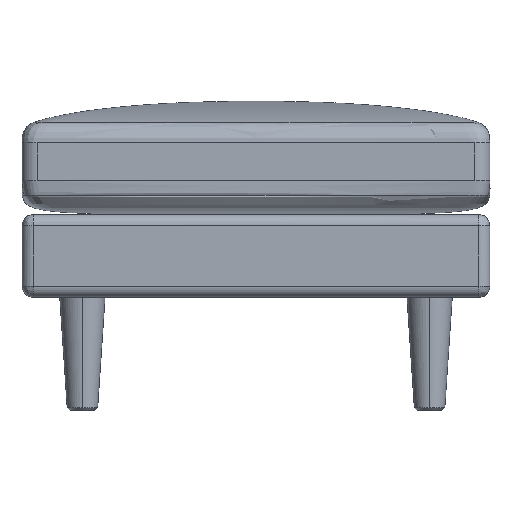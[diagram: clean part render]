
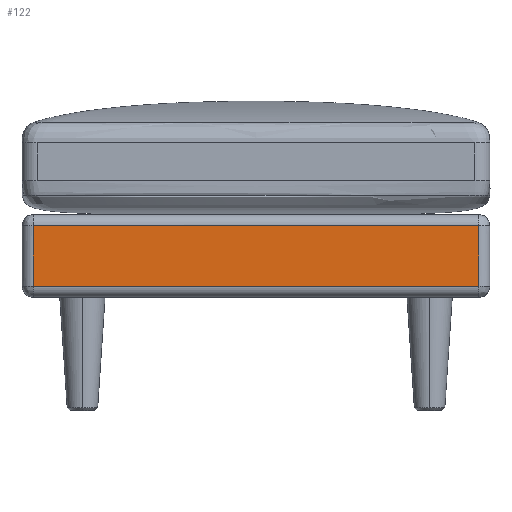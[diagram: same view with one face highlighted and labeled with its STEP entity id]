
A CAD part, left-side view. The second image highlights one B-rep face of the part: STEP entity #122.
In plain terms, the highlighted planar face has unit normal (-1, 0, 0).
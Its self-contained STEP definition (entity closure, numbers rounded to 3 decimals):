
#122=ADVANCED_FACE('',(#188),#885,.T.);
#188=FACE_OUTER_BOUND('',#254,.T.);
#254=EDGE_LOOP('',(#371,#372,#373,#374));
#371=ORIENTED_EDGE('',*,*,#603,.T.);
#372=ORIENTED_EDGE('',*,*,#602,.T.);
#373=ORIENTED_EDGE('',*,*,#604,.T.);
#374=ORIENTED_EDGE('',*,*,#601,.F.);
#601=EDGE_CURVE('',#806,#807,#731,.T.);
#602=EDGE_CURVE('',#808,#809,#732,.T.);
#603=EDGE_CURVE('',#806,#808,#733,.T.);
#604=EDGE_CURVE('',#809,#807,#734,.T.);
#731=B_SPLINE_CURVE_WITH_KNOTS('',1,(#1829,#1830),.UNSPECIFIED.,.F.,.F.,
(2,2),(15.,605.),.UNSPECIFIED.);
#732=B_SPLINE_CURVE_WITH_KNOTS('',1,(#1831,#1832),.UNSPECIFIED.,.F.,.F.,
(2,2),(15.,605.),.UNSPECIFIED.);
#733=B_SPLINE_CURVE_WITH_KNOTS('',1,(#1833,#1834),.UNSPECIFIED.,.F.,.F.,
(2,2),(15.,95.),.UNSPECIFIED.);
#734=B_SPLINE_CURVE_WITH_KNOTS('',1,(#1835,#1836),.UNSPECIFIED.,.F.,.F.,
(2,2),(15.,95.),.UNSPECIFIED.);
#806=VERTEX_POINT('',#1793);
#807=VERTEX_POINT('',#1794);
#808=VERTEX_POINT('',#1795);
#809=VERTEX_POINT('',#1796);
#885=PLANE('',#919);
#919=AXIS2_PLACEMENT_3D('',#1586,#936,$);
#936=DIRECTION('',(-1.,0.,0.));
#1586=CARTESIAN_POINT('',(-340.,620.,150.));
#1793=CARTESIAN_POINT('',(-340.,605.,245.));
#1794=CARTESIAN_POINT('',(-340.,15.,245.));
#1795=CARTESIAN_POINT('',(-340.,605.,165.));
#1796=CARTESIAN_POINT('',(-340.,15.,165.));
#1829=CARTESIAN_POINT('',(-340.,605.,245.));
#1830=CARTESIAN_POINT('',(-340.,15.,245.));
#1831=CARTESIAN_POINT('',(-340.,605.,165.));
#1832=CARTESIAN_POINT('',(-340.,15.,165.));
#1833=CARTESIAN_POINT('',(-340.,605.,245.));
#1834=CARTESIAN_POINT('',(-340.,605.,165.));
#1835=CARTESIAN_POINT('',(-340.,15.,165.));
#1836=CARTESIAN_POINT('',(-340.,15.,245.));
